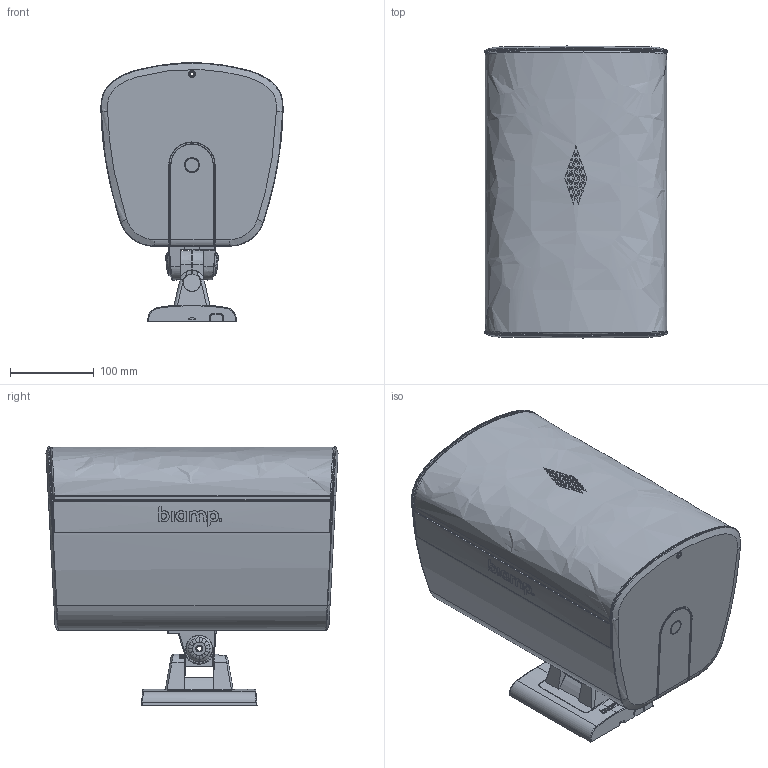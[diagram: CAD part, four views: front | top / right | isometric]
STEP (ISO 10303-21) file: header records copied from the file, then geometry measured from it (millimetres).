
FILE_DESCRIPTION (( 'STEP AP203' ), '1' );
FILE_NAME ('DESONO EX-S6 CM OPTION.90A.step', '2021-05-28T01:39:02', ( '' ), ( '' ), 'SwSTEP 2.0', 'SolidWorks 2021', '' );
FILE_SCHEMA (( 'CONFIG_CONTROL_DESIGN' ));
Length unit declared in the file: millimetre
Products named in the file (1): DESONO EX-S6 CM OPTION.90A
Bounding box: 217.83 x 349.14 x 309.27 mm (x, y, z)
Surface area: 575998.1 mm2 (no closed solid volume)
Topology: 0 solids, 295 shells, 1398 faces, 8177 edges, 6946 vertices
Faces by surface type: plane 731, bspline 408, cylinder 207, cone 52
Entity records: 125679 total; most frequent: CARTESIAN_POINT 73879, ORIENTED_EDGE 10451, EDGE_CURVE 8173, VERTEX_POINT 6946, DIRECTION 6604, B_SPLINE_CURVE_WITH_KNOTS 3835, LINE 3544, VECTOR 3544
